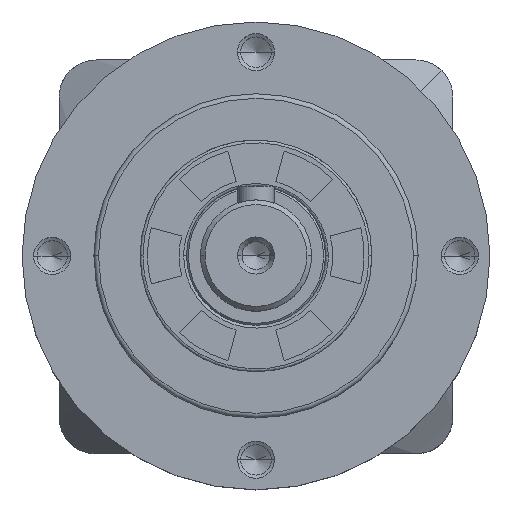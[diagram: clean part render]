
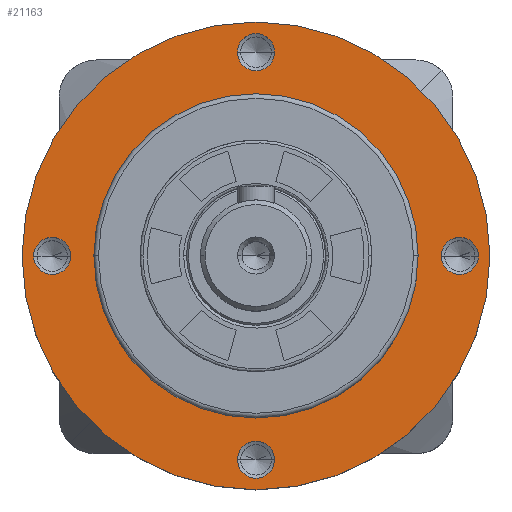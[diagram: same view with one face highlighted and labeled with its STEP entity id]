
A CAD part, top view. The second image highlights one B-rep face of the part: STEP entity #21163.
In plain terms, the highlighted planar face has unit normal (0, 0, 1).
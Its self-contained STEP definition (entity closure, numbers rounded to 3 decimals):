
#13 = CARTESIAN_POINT ( 'NONE',  ( 0., 22., 10.8 ) ) ;
#69 = EDGE_CURVE ( 'NONE', #18788, #11629, #687, .T. ) ;
#447 = ORIENTED_EDGE ( 'NONE', *, *, #4494, .F. ) ;
#606 = DIRECTION ( 'NONE',  ( 1., 0., 0. ) ) ;
#677 = DIRECTION ( 'NONE',  ( 0., 0., 1. ) ) ;
#687 = CIRCLE ( 'NONE', #792, 2. ) ;
#792 = AXIS2_PLACEMENT_3D ( 'NONE', #5185, #3400, #21730 ) ;
#893 = CIRCLE ( 'NONE', #21784, 17.5 ) ;
#944 = DIRECTION ( 'NONE',  ( 1., 0., 0. ) ) ;
#1133 = CIRCLE ( 'NONE', #8452, 2. ) ;
#1166 = DIRECTION ( 'NONE',  ( 1., 0., 0. ) ) ;
#1261 = AXIS2_PLACEMENT_3D ( 'NONE', #4796, #4877, #14000 ) ;
#1322 = VERTEX_POINT ( 'NONE', #5649 ) ;
#1711 = CIRCLE ( 'NONE', #7959, 2. ) ;
#2014 = CARTESIAN_POINT ( 'NONE',  ( 20., 0., 10.8 ) ) ;
#2192 = EDGE_LOOP ( 'NONE', ( #9993, #3569 ) ) ;
#2273 = VERTEX_POINT ( 'NONE', #2014 ) ;
#2429 = CARTESIAN_POINT ( 'NONE',  ( -17.5, 0., 10.8 ) ) ;
#2457 = CARTESIAN_POINT ( 'NONE',  ( 0., 0., 10.8 ) ) ;
#2491 = EDGE_LOOP ( 'NONE', ( #447, #14059 ) ) ;
#2737 = CARTESIAN_POINT ( 'NONE',  ( -22., 0., 10.8 ) ) ;
#3296 = EDGE_CURVE ( 'NONE', #18573, #1322, #893, .T. ) ;
#3298 = AXIS2_PLACEMENT_3D ( 'NONE', #17614, #12222, #8324 ) ;
#3310 = CARTESIAN_POINT ( 'NONE',  ( 0., -22., 10.8 ) ) ;
#3384 = VERTEX_POINT ( 'NONE', #13272 ) ;
#3400 = DIRECTION ( 'NONE',  ( 0., 0., 1. ) ) ;
#3569 = ORIENTED_EDGE ( 'NONE', *, *, #14398, .F. ) ;
#3574 = DIRECTION ( 'NONE',  ( 1., 0., 0. ) ) ;
#3667 = FACE_BOUND ( 'NONE', #2491, .T. ) ;
#4494 = EDGE_CURVE ( 'NONE', #13279, #8344, #19567, .T. ) ;
#4549 = AXIS2_PLACEMENT_3D ( 'NONE', #2457, #13446, #15484 ) ;
#4796 = CARTESIAN_POINT ( 'NONE',  ( 0., 0., 10.8 ) ) ;
#4877 = DIRECTION ( 'NONE',  ( 0., 0., 1. ) ) ;
#5185 = CARTESIAN_POINT ( 'NONE',  ( -22., 0., 10.8 ) ) ;
#5224 = VERTEX_POINT ( 'NONE', #17343 ) ;
#5517 = DIRECTION ( 'NONE',  ( 1., 0., 0. ) ) ;
#5589 = EDGE_CURVE ( 'NONE', #18850, #2273, #1133, .T. ) ;
#5628 = AXIS2_PLACEMENT_3D ( 'NONE', #3310, #23842, #1166 ) ;
#5649 = CARTESIAN_POINT ( 'NONE',  ( 17.5, 0., 10.8 ) ) ;
#6524 = PLANE ( 'NONE',  #1261 ) ;
#6994 = VERTEX_POINT ( 'NONE', #19812 ) ;
#7265 = EDGE_CURVE ( 'NONE', #5224, #3384, #15698, .T. ) ;
#7884 = EDGE_CURVE ( 'NONE', #11629, #18788, #13634, .T. ) ;
#7959 = AXIS2_PLACEMENT_3D ( 'NONE', #18805, #16609, #14965 ) ;
#8199 = DIRECTION ( 'NONE',  ( 1., 0., 0. ) ) ;
#8324 = DIRECTION ( 'NONE',  ( 1., 0., 0. ) ) ;
#8344 = VERTEX_POINT ( 'NONE', #16264 ) ;
#8452 = AXIS2_PLACEMENT_3D ( 'NONE', #20596, #24014, #3574 ) ;
#8560 = CIRCLE ( 'NONE', #10328, 25.25 ) ;
#8897 = CIRCLE ( 'NONE', #4549, 17.5 ) ;
#9184 = CARTESIAN_POINT ( 'NONE',  ( 2., -22., 10.8 ) ) ;
#9223 = CARTESIAN_POINT ( 'NONE',  ( 0., 22., 10.8 ) ) ;
#9538 = EDGE_LOOP ( 'NONE', ( #11321, #17958 ) ) ;
#9782 = AXIS2_PLACEMENT_3D ( 'NONE', #9223, #14770, #14843 ) ;
#9903 = CARTESIAN_POINT ( 'NONE',  ( -2., 22., 10.8 ) ) ;
#9993 = ORIENTED_EDGE ( 'NONE', *, *, #22015, .F. ) ;
#10328 = AXIS2_PLACEMENT_3D ( 'NONE', #19367, #677, #8199 ) ;
#10646 = FACE_BOUND ( 'NONE', #2192, .T. ) ;
#11085 = ORIENTED_EDGE ( 'NONE', *, *, #7884, .F. ) ;
#11305 = ORIENTED_EDGE ( 'NONE', *, *, #69, .F. ) ;
#11321 = ORIENTED_EDGE ( 'NONE', *, *, #22994, .T. ) ;
#11629 = VERTEX_POINT ( 'NONE', #17040 ) ;
#12184 = EDGE_LOOP ( 'NONE', ( #21754, #23617 ) ) ;
#12222 = DIRECTION ( 'NONE',  ( 0., 0., 1. ) ) ;
#12366 = CIRCLE ( 'NONE', #20661, 2. ) ;
#13006 = AXIS2_PLACEMENT_3D ( 'NONE', #2737, #15773, #606 ) ;
#13272 = CARTESIAN_POINT ( 'NONE',  ( 25.25, 0., 10.8 ) ) ;
#13279 = VERTEX_POINT ( 'NONE', #9184 ) ;
#13446 = DIRECTION ( 'NONE',  ( 0., 0., 1. ) ) ;
#13634 = CIRCLE ( 'NONE', #13006, 2. ) ;
#13979 = ORIENTED_EDGE ( 'NONE', *, *, #21105, .F. ) ;
#14000 = DIRECTION ( 'NONE',  ( 1., 0., 0. ) ) ;
#14059 = ORIENTED_EDGE ( 'NONE', *, *, #18815, .F. ) ;
#14398 = EDGE_CURVE ( 'NONE', #20372, #6994, #21562, .T. ) ;
#14770 = DIRECTION ( 'NONE',  ( 0., 0., 1. ) ) ;
#14843 = DIRECTION ( 'NONE',  ( 1., 0., 0. ) ) ;
#14965 = DIRECTION ( 'NONE',  ( 1., 0., 0. ) ) ;
#15484 = DIRECTION ( 'NONE',  ( 1., 0., 0. ) ) ;
#15693 = CARTESIAN_POINT ( 'NONE',  ( -20., 0., 10.8 ) ) ;
#15698 = CIRCLE ( 'NONE', #17995, 25.25 ) ;
#15773 = DIRECTION ( 'NONE',  ( 0., 0., 1. ) ) ;
#16264 = CARTESIAN_POINT ( 'NONE',  ( -2., -22., 10.8 ) ) ;
#16609 = DIRECTION ( 'NONE',  ( 0., 0., 1. ) ) ;
#16654 = ORIENTED_EDGE ( 'NONE', *, *, #3296, .F. ) ;
#16761 = EDGE_CURVE ( 'NONE', #2273, #18850, #1711, .T. ) ;
#17040 = CARTESIAN_POINT ( 'NONE',  ( -24., 0., 10.8 ) ) ;
#17343 = CARTESIAN_POINT ( 'NONE',  ( -25.25, 0., 10.8 ) ) ;
#17358 = FACE_BOUND ( 'NONE', #17376, .T. ) ;
#17376 = EDGE_LOOP ( 'NONE', ( #16654, #13979 ) ) ;
#17614 = CARTESIAN_POINT ( 'NONE',  ( 0., -22., 10.8 ) ) ;
#17676 = CARTESIAN_POINT ( 'NONE',  ( 0., 0., 10.8 ) ) ;
#17958 = ORIENTED_EDGE ( 'NONE', *, *, #7265, .T. ) ;
#17988 = CIRCLE ( 'NONE', #5628, 2. ) ;
#17995 = AXIS2_PLACEMENT_3D ( 'NONE', #17676, #19792, #944 ) ;
#18538 = FACE_BOUND ( 'NONE', #20399, .T. ) ;
#18573 = VERTEX_POINT ( 'NONE', #2429 ) ;
#18788 = VERTEX_POINT ( 'NONE', #15693 ) ;
#18805 = CARTESIAN_POINT ( 'NONE',  ( 22., 0., 10.8 ) ) ;
#18815 = EDGE_CURVE ( 'NONE', #8344, #13279, #17988, .T. ) ;
#18850 = VERTEX_POINT ( 'NONE', #19530 ) ;
#19119 = FACE_OUTER_BOUND ( 'NONE', #9538, .T. ) ;
#19367 = CARTESIAN_POINT ( 'NONE',  ( 0., 0., 10.8 ) ) ;
#19530 = CARTESIAN_POINT ( 'NONE',  ( 24., 0., 10.8 ) ) ;
#19567 = CIRCLE ( 'NONE', #3298, 2. ) ;
#19792 = DIRECTION ( 'NONE',  ( 0., 0., 1. ) ) ;
#19812 = CARTESIAN_POINT ( 'NONE',  ( 2., 22., 10.8 ) ) ;
#20179 = DIRECTION ( 'NONE',  ( 0., 0., 1. ) ) ;
#20257 = CARTESIAN_POINT ( 'NONE',  ( 0., 0., 10.8 ) ) ;
#20348 = DIRECTION ( 'NONE',  ( 0., 0., 1. ) ) ;
#20372 = VERTEX_POINT ( 'NONE', #9903 ) ;
#20399 = EDGE_LOOP ( 'NONE', ( #11305, #11085 ) ) ;
#20414 = DIRECTION ( 'NONE',  ( 1., 0., 0. ) ) ;
#20596 = CARTESIAN_POINT ( 'NONE',  ( 22., 0., 10.8 ) ) ;
#20661 = AXIS2_PLACEMENT_3D ( 'NONE', #13, #20348, #5517 ) ;
#21105 = EDGE_CURVE ( 'NONE', #1322, #18573, #8897, .T. ) ;
#21163 = ADVANCED_FACE ( 'NONE', ( #24066, #18538, #3667, #10646, #17358, #19119 ), #6524, .T. ) ;
#21562 = CIRCLE ( 'NONE', #9782, 2. ) ;
#21730 = DIRECTION ( 'NONE',  ( 1., 0., 0. ) ) ;
#21754 = ORIENTED_EDGE ( 'NONE', *, *, #5589, .F. ) ;
#21784 = AXIS2_PLACEMENT_3D ( 'NONE', #20257, #20179, #20414 ) ;
#22015 = EDGE_CURVE ( 'NONE', #6994, #20372, #12366, .T. ) ;
#22994 = EDGE_CURVE ( 'NONE', #3384, #5224, #8560, .T. ) ;
#23617 = ORIENTED_EDGE ( 'NONE', *, *, #16761, .F. ) ;
#23842 = DIRECTION ( 'NONE',  ( 0., 0., 1. ) ) ;
#24014 = DIRECTION ( 'NONE',  ( 0., 0., 1. ) ) ;
#24066 = FACE_BOUND ( 'NONE', #12184, .T. ) ;
